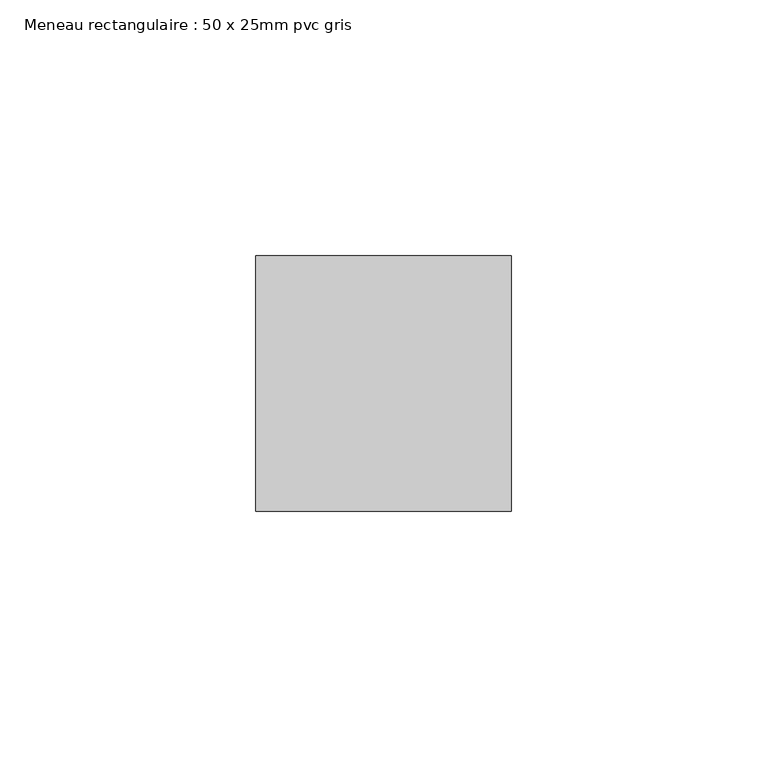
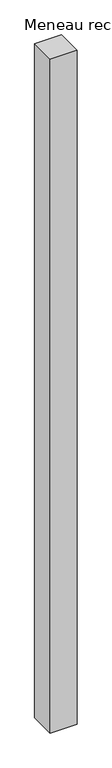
"""IFC4 building model written with IfcOpenShell, lengths in millimetres: member geometry, Meneau rectangulaire : 50 x 25mm pvc gris."""

from ifc_helpers import new_model, si_unit, frame, origin, place, context, project, spatial, polyline, outline, extrude, source, transform, mapped, element, save


def meneau_rectangulaire_50_x_25mm_pvc_gris_5c4cef84(model_context):
    return source(origin(), model_context, "Body", "SweptSolid", [
        extrude(outline(polyline([(0.0, 0.0), (0.0, -50.0), (-50.0, -50.0), (-50.0, 0.0), (0.0, 0.0)])), frame((0.0, 0.0, -1320.0), z_axis=(0.0, 0.0, 1.0), x_axis=(1.0, 0.0, 0.0)), (0.0, 0.0, 1.0), 1320.0),
    ])


if __name__ == "__main__":
    model = new_model("IFC4")
    model_context = context("Model", 3, world=origin())
    ifc_project = project(units=[si_unit("LENGTHUNIT", "METRE", prefix="MILLI")], contexts=[model_context])
    site = spatial("IfcSite", under=ifc_project)
    building = spatial("IfcBuilding", under=site)
    placement = place(None, origin())
    meneau_rectangulaire_50_x_25mm_pvc_gris_shape = meneau_rectangulaire_50_x_25mm_pvc_gris_5c4cef84(model_context)
    element("IfcMember", 1, ObjectType="Meneau rectangulaire : 50 x 25mm pvc gris", at=placement, inside=building, context=model_context, shape_type="MappedRepresentation", body=[
        mapped(meneau_rectangulaire_50_x_25mm_pvc_gris_shape, transform((0.0, 0.0, 0.0), x_axis=(1.0, 0.0, 0.0), y_axis=(0.0, 1.0, 0.0), z_axis=(0.0, 0.0, 1.0))),
    ])
    save(model, "model.ifc")
